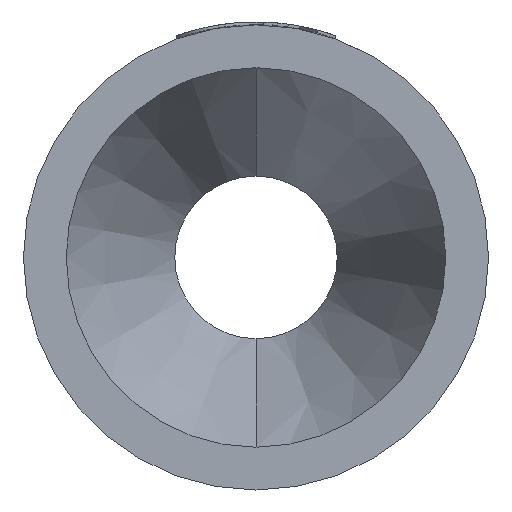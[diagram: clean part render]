
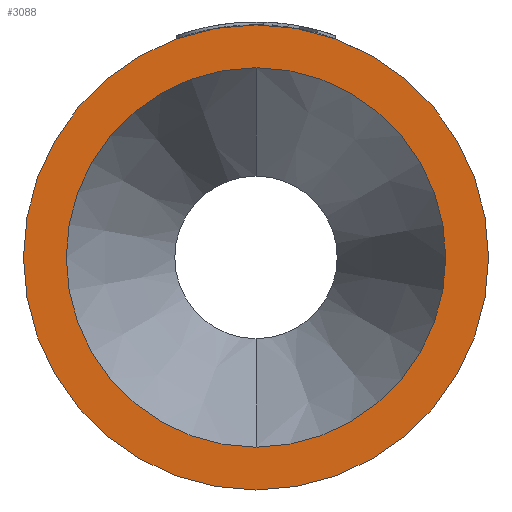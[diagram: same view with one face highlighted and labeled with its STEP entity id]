
A CAD part, left-side view. The second image highlights one B-rep face of the part: STEP entity #3088.
In plain terms, the highlighted planar face has unit normal (-1, 0, 0).
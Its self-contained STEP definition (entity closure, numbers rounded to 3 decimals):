
#109 = CIRCLE ( 'NONE', #982, 37.5 ) ;
#202 = CIRCLE ( 'NONE', #1173, 30.6 ) ;
#871 = ORIENTED_EDGE ( 'NONE', *, *, #3057, .F. ) ;
#982 = AXIS2_PLACEMENT_3D ( 'NONE', #1642, #1625, #1616 ) ;
#1139 = DIRECTION ( 'NONE',  ( 0., 0., 1. ) ) ;
#1173 = AXIS2_PLACEMENT_3D ( 'NONE', #2335, #2332, #2324 ) ;
#1277 = DIRECTION ( 'NONE',  ( -1., 0., 0. ) ) ;
#1290 = CARTESIAN_POINT ( 'NONE',  ( 0., 0., 0. ) ) ;
#1339 = CARTESIAN_POINT ( 'NONE',  ( 0., 0., -37.5 ) ) ;
#1475 = CARTESIAN_POINT ( 'NONE',  ( 0., 0., 37.5 ) ) ;
#1616 = DIRECTION ( 'NONE',  ( 0., 0., 1. ) ) ;
#1625 = DIRECTION ( 'NONE',  ( -1., 0., 0. ) ) ;
#1642 = CARTESIAN_POINT ( 'NONE',  ( 0., 0., 0. ) ) ;
#1648 = CARTESIAN_POINT ( 'NONE',  ( 0., 0., 30.6 ) ) ;
#1762 = VERTEX_POINT ( 'NONE', #1648 ) ;
#1925 = CARTESIAN_POINT ( 'NONE',  ( 0., 0., -30.6 ) ) ;
#1928 = AXIS2_PLACEMENT_3D ( 'NONE', #3243, #3217, #3208 ) ;
#2061 = FACE_OUTER_BOUND ( 'NONE', #3195, .T. ) ;
#2095 = VERTEX_POINT ( 'NONE', #1925 ) ;
#2098 = VERTEX_POINT ( 'NONE', #1475 ) ;
#2105 = FACE_BOUND ( 'NONE', #2174, .T. ) ;
#2174 = EDGE_LOOP ( 'NONE', ( #2426, #871 ) ) ;
#2248 = CIRCLE ( 'NONE', #1928, 30.6 ) ;
#2324 = DIRECTION ( 'NONE',  ( 0., 0., 1. ) ) ;
#2332 = DIRECTION ( 'NONE',  ( -1., 0., 0. ) ) ;
#2335 = CARTESIAN_POINT ( 'NONE',  ( 0., 0., 0. ) ) ;
#2368 = DIRECTION ( 'NONE',  ( 0., 0., -1. ) ) ;
#2399 = EDGE_CURVE ( 'NONE', #1762, #2095, #202, .T. ) ;
#2400 = DIRECTION ( 'NONE',  ( 1., 0., 0. ) ) ;
#2417 = CARTESIAN_POINT ( 'NONE',  ( 0., 30.6, 0. ) ) ;
#2426 = ORIENTED_EDGE ( 'NONE', *, *, #2399, .F. ) ;
#2459 = AXIS2_PLACEMENT_3D ( 'NONE', #1290, #1277, #1139 ) ;
#2503 = PLANE ( 'NONE',  #2565 ) ;
#2559 = ORIENTED_EDGE ( 'NONE', *, *, #2831, .T. ) ;
#2565 = AXIS2_PLACEMENT_3D ( 'NONE', #2417, #2400, #2368 ) ;
#2568 = EDGE_CURVE ( 'NONE', #2840, #2098, #109, .T. ) ;
#2831 = EDGE_CURVE ( 'NONE', #2098, #2840, #2994, .T. ) ;
#2840 = VERTEX_POINT ( 'NONE', #1339 ) ;
#2994 = CIRCLE ( 'NONE', #2459, 37.5 ) ;
#3057 = EDGE_CURVE ( 'NONE', #2095, #1762, #2248, .T. ) ;
#3088 = ADVANCED_FACE ( 'NONE', ( #2105, #2061 ), #2503, .F. ) ;
#3195 = EDGE_LOOP ( 'NONE', ( #2559, #3218 ) ) ;
#3208 = DIRECTION ( 'NONE',  ( 0., 0., 1. ) ) ;
#3217 = DIRECTION ( 'NONE',  ( -1., 0., 0. ) ) ;
#3218 = ORIENTED_EDGE ( 'NONE', *, *, #2568, .T. ) ;
#3243 = CARTESIAN_POINT ( 'NONE',  ( 0., 0., 0. ) ) ;
